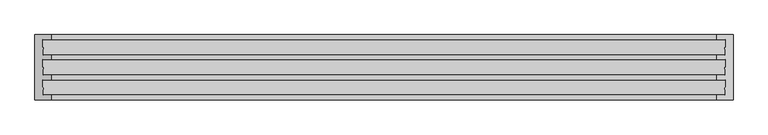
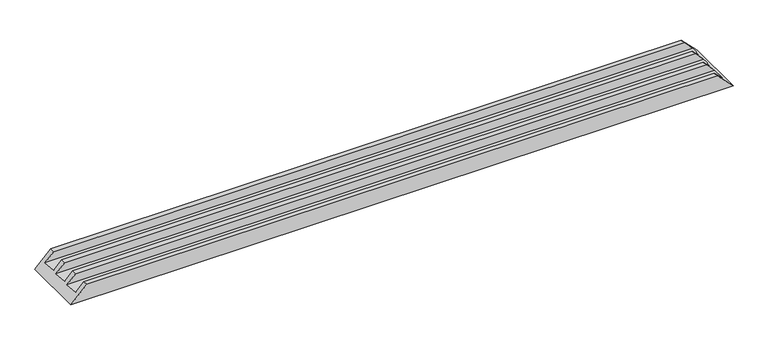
"""IFC4 building model written with IfcOpenShell, lengths in millimetres: proxy geometry, Weiku - Montante - Caixilho quadruplo 02.2.01.003-002 refilado : Weiku - Montante - Caixilho quadruplo 02.2.01.003-002 refilado."""

import ifcopenshell
import ifcopenshell.guid

model = None  # the IFC model being written
_history = None  # IfcOwnerHistory: only IFC2X3 demands one
_inside = {}  # id of a spatial element -> (the spatial element, [elements in it])
_under = {}  # id of a project, library or spatial element -> (it, [spatial elements below it])
_declared = {}  # id of a project -> (the project, [libraries it declares])
_typed = {}  # id of a type object -> (the type object, [elements of that type])
_made_of = {}  # id of a material, layer set ... -> (it, [elements and type objects made of it])


def new_model(schema):
    """Start an empty IFC model of exactly this schema.

    Asked for "IFC4X3", IfcOpenShell would pick the latest addendum, in which some entities
    have other attributes; the version numbers below select the first issue.
    IFC2X3 requires an IfcOwnerHistory on every rooted entity: one is made here for all.
    """
    global model, _history
    if schema == "IFC4X3":
        model = ifcopenshell.file(schema_version=(4, 3, 0, 0))
    else:
        model = ifcopenshell.file(schema=schema)
    _inside.clear()
    _under.clear()
    _declared.clear()
    _typed.clear()
    _made_of.clear()
    _history = None
    if model.schema == "IFC2X3":
        org = make("IfcOrganization", Name="unknown")
        user = make(
            "IfcPersonAndOrganization",
            ThePerson=make("IfcPerson", FamilyName="unknown"),
            TheOrganization=org,
        )
        app = make(
            "IfcApplication",
            ApplicationDeveloper=org,
            Version="unknown",
            ApplicationFullName="unknown",
            ApplicationIdentifier="unknown",
        )
        _history = make(
            "IfcOwnerHistory",
            OwningUser=user,
            OwningApplication=app,
            ChangeAction="ADDED",
            CreationDate=0,
        )
    return model


def make(cls, **values):
    """One entity of the class cls with the attributes given. An attribute that is None is left unset."""
    return model.create_entity(
        cls, **{name: value for name, value in values.items() if value is not None}
    )


def rooted(cls, **values):
    """An entity with a GlobalId (a new one), such as an element, a storey or a relation."""
    return make(cls, GlobalId=ifcopenshell.guid.new(), OwnerHistory=_history, **values)


def si_unit(unit_type, name, prefix=None):
    """IfcSIUnit, for example si_unit("LENGTHUNIT", "METRE", prefix="MILLI")."""
    return make("IfcSIUnit", UnitType=unit_type, Prefix=prefix, Name=name)


def assignment(units):
    """IfcUnitAssignment: the units of a project."""
    return None if units is None else make("IfcUnitAssignment", Units=units)


def point(xyz):
    """IfcCartesianPoint."""
    return None if xyz is None else make("IfcCartesianPoint", Coordinates=xyz)


def direction(xyz):
    """IfcDirection."""
    return None if xyz is None else make("IfcDirection", DirectionRatios=xyz)


def frame(location, z_axis=None, x_axis=None):
    """IfcAxis2Placement3D, a coordinate frame: its origin and axes. An axis left out is left unset."""
    return make(
        "IfcAxis2Placement3D",
        Location=point(location),
        Axis=direction(z_axis),
        RefDirection=direction(x_axis),
    )


def origin():
    """The frame at (0, 0, 0) with its axes left unset."""
    return frame((0.0, 0.0, 0.0))


def place(relative_to, where):
    """IfcLocalPlacement: puts the frame where relative to a parent placement (None: the world)."""
    return make(
        "IfcLocalPlacement", PlacementRelTo=relative_to, RelativePlacement=where
    )


def context(
    kind, dimensions, precision=None, world=None, true_north=None, identifier=None
):
    """IfcGeometricRepresentationContext, for example the 3D "Model" context."""
    return make(
        "IfcGeometricRepresentationContext",
        ContextIdentifier=identifier,
        ContextType=kind,
        CoordinateSpaceDimension=dimensions,
        Precision=precision,
        WorldCoordinateSystem=world,
        TrueNorth=true_north,
    )


def project(units=None, contexts=None):
    """IfcProject with its units and contexts."""
    return rooted(
        "IfcProject",
        Name="project",
        RepresentationContexts=contexts,
        UnitsInContext=assignment(units),
    )


def spatial(cls, under=None, at=None, **own):
    """A site, building, storey or space (cls), placed at a placement, below another one or the project."""
    s = rooted(cls, ObjectPlacement=at, **own)
    if under is not None:
        _under.setdefault(under.id(), (under, []))[1].append(s)
    return s


def faces_of(points, faces, orient=None, outer=None):
    """IfcFace entities. A face is a list of loops; a loop is a list of indices into points, from 0.

    orient and outer hold one flag for each loop. By default every Orientation is true, the
    first loop of a face is its IfcFaceOuterBound and the others are IfcFaceBound.
    """
    made = []
    for i, loops in enumerate(faces):
        bounds = []
        for j, loop in enumerate(loops):
            is_outer = j == 0 if outer is None else outer[i][j]
            bounds.append(
                make(
                    "IfcFaceOuterBound" if is_outer else "IfcFaceBound",
                    Bound=make("IfcPolyLoop", Polygon=[points[k] for k in loop]),
                    Orientation=True if orient is None else orient[i][j],
                )
            )
        made.append(make("IfcFace", Bounds=bounds))
    return made


def faceted_brep(points, faces, orient=None, outer=None, voids=None):
    """IfcFacetedBrep: a solid bounded by flat faces; with voids (closed shells), ...WithVoids."""
    shared = [point(p) for p in points]
    hull = make("IfcClosedShell", CfsFaces=faces_of(shared, faces, orient, outer))
    if voids is None:
        return make("IfcFacetedBrep", Outer=hull)
    return make(
        "IfcFacetedBrepWithVoids",
        Outer=hull,
        Voids=[
            make(cls, CfsFaces=faces_of(shared, fs, o, b)) for cls, fs, o, b in voids
        ],
    )


def shape(context_of_items, identifier, shape_type, items):
    """IfcShapeRepresentation: the items that make up one representation, for example the "Body"."""
    return make(
        "IfcShapeRepresentation",
        ContextOfItems=context_of_items,
        RepresentationIdentifier=identifier,
        RepresentationType=shape_type,
        Items=items,
    )


def source(mapping_origin, context_of_items, identifier, shape_type, items):
    """IfcRepresentationMap: a shape defined once, which mapped items show again and again."""
    return make(
        "IfcRepresentationMap",
        MappingOrigin=mapping_origin,
        MappedRepresentation=shape(context_of_items, identifier, shape_type, items),
    )


def transform(
    local_origin,
    x_axis=None,
    y_axis=None,
    z_axis=None,
    scale=None,
    scale2=None,
    scale3=None,
    uniform=True,
):
    """IfcCartesianTransformationOperator3D, or its non-uniform kind. x_axis, y_axis, z_axis: its Axis1, 2, 3."""
    if uniform:
        return make(
            "IfcCartesianTransformationOperator3D",
            Axis1=direction(x_axis),
            Axis2=direction(y_axis),
            LocalOrigin=point(local_origin),
            Scale=scale,
            Axis3=direction(z_axis),
        )
    return make(
        "IfcCartesianTransformationOperator3DnonUniform",
        Axis1=direction(x_axis),
        Axis2=direction(y_axis),
        LocalOrigin=point(local_origin),
        Scale=scale,
        Axis3=direction(z_axis),
        Scale2=scale2,
        Scale3=scale3,
    )


def mapped(mapping_source, mapping_target):
    """IfcMappedItem: shows the shape of a source again, moved by a transform."""
    return make(
        "IfcMappedItem", MappingSource=mapping_source, MappingTarget=mapping_target
    )


def made_of(thing, what):
    """Note that an element or type object is made of a material, layer set ...; save() writes the relation."""
    if what is not None:
        _made_of.setdefault(what.id(), (what, []))[1].append(thing)
    return thing


def element(
    cls,
    number,
    at=None,
    inside=None,
    cuts=None,
    type_object=None,
    material=None,
    context=None,
    identifier="Body",
    shape_type=None,
    held_by="IfcProductDefinitionShape",
    body=None,
    shapes=None,
    **own,
):
    """One element of the class cls, such as IfcWall. Its Tag is "e" and its number.

    at: its placement. inside: the storey or other place that contains it. cuts: it is an
    opening in that element (IfcRelVoidsElement). A single representation is given by context,
    identifier, shape_type and body (its items); several are given by shapes. held_by: the class
    of the entity that holds the representations. save() writes the other relations.
    """
    e = rooted(cls, Tag="e%d" % number, ObjectPlacement=at, **own)
    if body is not None:
        shapes = [shape(context, identifier, shape_type, body)]
    if shapes is not None:
        e.Representation = make(held_by, Representations=shapes)
    if inside is not None:
        _inside.setdefault(inside.id(), (inside, []))[1].append(e)
    if cuts is not None:
        rooted(
            "IfcRelVoidsElement", RelatingBuildingElement=cuts, RelatedOpeningElement=e
        )
    if type_object is not None:
        _typed.setdefault(type_object.id(), (type_object, []))[1].append(e)
    return made_of(e, material)


def aggregate(whole, parts):
    """IfcRelAggregates: a whole, such as a stair, and the parts it consists of."""
    return rooted("IfcRelAggregates", RelatingObject=whole, RelatedObjects=parts)


def save(model, path):
    """Write the relations noted so far, then the file.

    IfcRelAggregates (storeys below a building ...), IfcRelContainedInSpatialStructure (elements
    in a storey), IfcRelDefinesByType, IfcRelAssociatesMaterial and IfcRelDeclares: one each for
    every whole, place, type object, material and project.
    """
    for whole, parts in _under.values():
        aggregate(whole, parts)
    for where, things in _inside.values():
        rooted(
            "IfcRelContainedInSpatialStructure",
            RelatedElements=things,
            RelatingStructure=where,
        )
    for kind, things in _typed.values():
        rooted("IfcRelDefinesByType", RelatedObjects=things, RelatingType=kind)
    for what, things in _made_of.values():
        rooted("IfcRelAssociatesMaterial", RelatedObjects=things, RelatingMaterial=what)
    for by, libraries in _declared.values():
        rooted("IfcRelDeclares", RelatingContext=by, RelatedDefinitions=libraries)
    model.write(path)


def generic_models_bffc961f(model_context):
    return source(origin(), model_context, "Body", "Brep", [
        faceted_brep([(-1049.5, 77.0, 26.0), (-1023.5, 77.0, 52.0), (1023.5, 77.0, 52.0), (1049.5, 77.0, 26.0), (-1051.7229744, 124.0, 23.7770256), (1051.7229744, 124.0, 23.7770256), (-1023.5, 124.0, 52.0), (1023.5, 124.0, 52.0), (-1023.5, 139.0, 52.0), (1023.5, 139.0, 52.0), (-1075.5, 201.0, 0.0), (1075.5, 201.0, 0.0), (1075.5, 0.0, 0.0), (-1075.5, 0.0, 0.0), (-1023.5, 62.0, 52.0), (1023.5, 62.0, 52.0), (-1049.5, 139.0, 26.0), (1049.5, 139.0, 26.0), (-1051.7229744, 186.0, 23.7770256), (1051.7229744, 186.0, 23.7770256), (-1023.5, 186.0, 52.0), (1023.5, 186.0, 52.0), (-1023.5, 201.0, 52.0), (1023.5, 201.0, 52.0), (1023.5, 0.0, 52.0), (-1023.5, 0.0, 52.0), (-1023.5, 15.0, 52.0), (1023.5, 15.0, 52.0), (-1049.5, 15.0, 26.0), (1049.5, 15.0, 26.0), (-1051.7229744, 62.0, 23.7770256), (1051.7229744, 62.0, 23.7770256)], [[[0, 1, 2, 3]], [[4, 0, 3, 5]], [[6, 4, 5, 7]], [[8, 6, 7, 9]], [[10, 11, 12, 13]], [[1, 14, 15, 2]], [[16, 8, 9, 17]], [[18, 16, 17, 19]], [[20, 18, 19, 21]], [[22, 20, 21, 23]], [[11, 10, 22, 23]], [[13, 12, 24, 25]], [[26, 25, 24, 27]], [[28, 26, 27, 29]], [[30, 28, 29, 31]], [[14, 30, 31, 15]], [[1, 0, 4, 6, 8, 16, 18, 20, 22, 10, 13, 25, 26, 28, 30, 14]], [[3, 2, 15, 31, 29, 27, 24, 12, 11, 23, 21, 19, 17, 9, 7, 5]]]),
    ])


if __name__ == "__main__":
    model = new_model("IFC4")
    model_context = context("Model", 3, world=origin())
    ifc_project = project(units=[si_unit("LENGTHUNIT", "METRE", prefix="MILLI")], contexts=[model_context])
    site = spatial("IfcSite", under=ifc_project)
    building = spatial("IfcBuilding", under=site)
    placement = place(None, origin())
    generic_models_shape = generic_models_bffc961f(model_context)
    element("IfcBuildingElementProxy", 1, Name="Weiku - Montante - Caixilho quadruplo 02.2.01.003-002 refilado : Weiku - Montante - Caixilho quadruplo 02.2.01.003-002 refilado", ObjectType="Weiku - Montante - Caixilho quadruplo 02.2.01.003-002 refilado : Weiku - Montante - Caixilho quadruplo 02.2.01.003-002 refilado", at=placement, inside=building, context=model_context, shape_type="MappedRepresentation", body=[
        mapped(generic_models_shape, transform((0.0, 0.0, 0.0), x_axis=(1.0, 0.0, 0.0), y_axis=(0.0, 1.0, 0.0), z_axis=(0.0, 0.0, 1.0))),
    ])
    save(model, "model.ifc")
